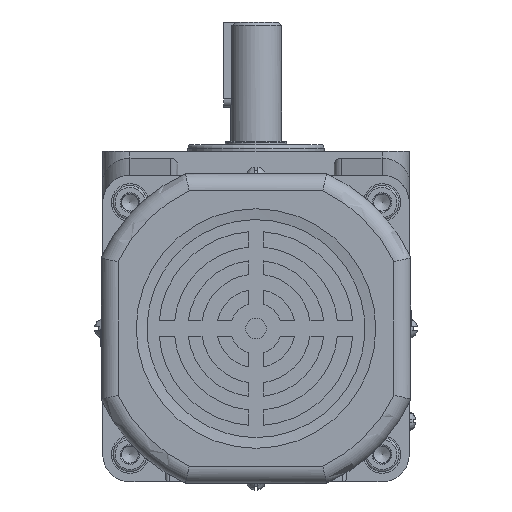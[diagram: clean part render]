
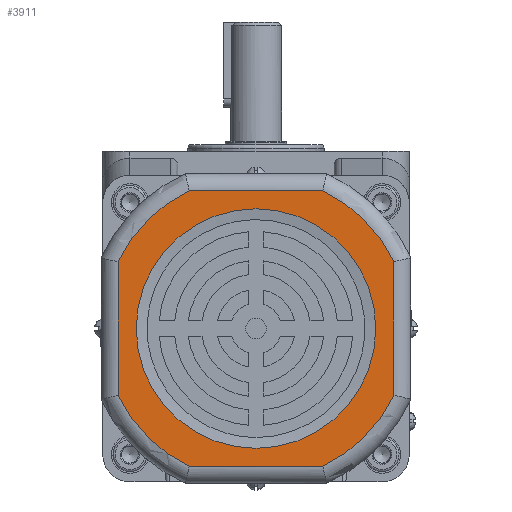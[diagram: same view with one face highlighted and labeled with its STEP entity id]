
A CAD part, front view. The second image highlights one B-rep face of the part: STEP entity #3911.
In plain terms, the highlighted planar face has unit normal (0, -1, 0).
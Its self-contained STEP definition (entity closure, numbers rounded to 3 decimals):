
#1236=FACE_BOUND('',#5359,.T.);
#1237=FACE_BOUND('',#5360,.T.);
#1563=PLANE('',#13403);
#2191=LINE('',#18325,#3040);
#2193=LINE('',#18328,#3042);
#2195=LINE('',#18331,#3044);
#2198=LINE('',#18335,#3047);
#3040=VECTOR('',#14732,1.);
#3042=VECTOR('',#14736,1.);
#3044=VECTOR('',#14740,1.);
#3047=VECTOR('',#14745,1.);
#3911=ADVANCED_FACE('',(#1236,#1237),#1563,.F.);
#5359=EDGE_LOOP('',(#6372,#6373,#6374,#6375,#6376,#6377,#6378,#6379));
#5360=EDGE_LOOP('',(#6380));
#6372=ORIENTED_EDGE('',*,*,#10700,.T.);
#6373=ORIENTED_EDGE('',*,*,#10690,.T.);
#6374=ORIENTED_EDGE('',*,*,#10697,.T.);
#6375=ORIENTED_EDGE('',*,*,#10686,.T.);
#6376=ORIENTED_EDGE('',*,*,#10695,.T.);
#6377=ORIENTED_EDGE('',*,*,#10682,.T.);
#6378=ORIENTED_EDGE('',*,*,#10693,.T.);
#6379=ORIENTED_EDGE('',*,*,#10678,.T.);
#6380=ORIENTED_EDGE('',*,*,#10738,.F.);
#9597=VERTEX_POINT('',#18213);
#9599=VERTEX_POINT('',#18216);
#9601=VERTEX_POINT('',#18244);
#9603=VERTEX_POINT('',#18247);
#9605=VERTEX_POINT('',#18275);
#9607=VERTEX_POINT('',#18278);
#9609=VERTEX_POINT('',#18306);
#9611=VERTEX_POINT('',#18309);
#9638=VERTEX_POINT('',#18611);
#10678=EDGE_CURVE('',#9599,#9597,#12619,.T.);
#10682=EDGE_CURVE('',#9603,#9601,#12621,.T.);
#10686=EDGE_CURVE('',#9607,#9605,#12623,.T.);
#10690=EDGE_CURVE('',#9611,#9609,#12625,.T.);
#10693=EDGE_CURVE('',#9601,#9599,#2191,.T.);
#10695=EDGE_CURVE('',#9605,#9603,#2193,.T.);
#10697=EDGE_CURVE('',#9609,#9607,#2195,.T.);
#10700=EDGE_CURVE('',#9597,#9611,#2198,.T.);
#10738=EDGE_CURVE('',#9638,#9638,#12627,.T.);
#12619=CIRCLE('',#13373,45.);
#12621=CIRCLE('',#13376,45.);
#12623=CIRCLE('',#13379,45.);
#12625=CIRCLE('',#13382,45.);
#12627=CIRCLE('',#13402,35.157);
#13373=AXIS2_PLACEMENT_3D('',#18215,#14708,#14709);
#13376=AXIS2_PLACEMENT_3D('',#18246,#14714,#14715);
#13379=AXIS2_PLACEMENT_3D('',#18277,#14720,#14721);
#13382=AXIS2_PLACEMENT_3D('',#18308,#14726,#14727);
#13402=AXIS2_PLACEMENT_3D('',#18610,#14798,#14799);
#13403=AXIS2_PLACEMENT_3D('',#18612,#14800,#14801);
#14708=DIRECTION('',(0.,-1.,0.));
#14709=DIRECTION('',(0.,0.,1.));
#14714=DIRECTION('',(0.,-1.,0.));
#14715=DIRECTION('',(0.,0.,1.));
#14720=DIRECTION('',(0.,-1.,0.));
#14721=DIRECTION('',(0.,0.,1.));
#14726=DIRECTION('',(0.,-1.,0.));
#14727=DIRECTION('',(0.,0.,1.));
#14732=DIRECTION('',(0.,0.,1.));
#14736=DIRECTION('',(1.,0.,0.));
#14740=DIRECTION('',(0.,0.,-1.));
#14745=DIRECTION('',(-1.,0.,0.));
#14798=DIRECTION('',(0.,-1.,0.));
#14799=DIRECTION('',(0.,0.,-1.));
#14800=DIRECTION('',(0.,1.,0.));
#14801=DIRECTION('',(0.,0.,1.));
#18213=CARTESIAN_POINT('',(19.615,-268.,-11.5));
#18215=CARTESIAN_POINT('',(0.,-268.,-52.));
#18216=CARTESIAN_POINT('',(40.5,-268.,-32.385));
#18244=CARTESIAN_POINT('',(40.5,-268.,-71.615));
#18246=CARTESIAN_POINT('',(0.,-268.,-52.));
#18247=CARTESIAN_POINT('',(19.615,-268.,-92.5));
#18275=CARTESIAN_POINT('',(-19.615,-268.,-92.5));
#18277=CARTESIAN_POINT('',(0.,-268.,-52.));
#18278=CARTESIAN_POINT('',(-40.5,-268.,-71.615));
#18306=CARTESIAN_POINT('',(-40.5,-268.,-32.385));
#18308=CARTESIAN_POINT('',(0.,-268.,-52.));
#18309=CARTESIAN_POINT('',(-19.615,-268.,-11.5));
#18325=CARTESIAN_POINT('',(40.5,-268.,-52.));
#18328=CARTESIAN_POINT('',(45.457,-268.,-92.5));
#18331=CARTESIAN_POINT('',(-40.5,-268.,-52.));
#18335=CARTESIAN_POINT('',(45.457,-268.,-11.5));
#18610=CARTESIAN_POINT('',(0.,-268.,-52.));
#18611=CARTESIAN_POINT('',(0.,-268.,-87.157));
#18612=CARTESIAN_POINT('',(45.457,-268.,-52.));
